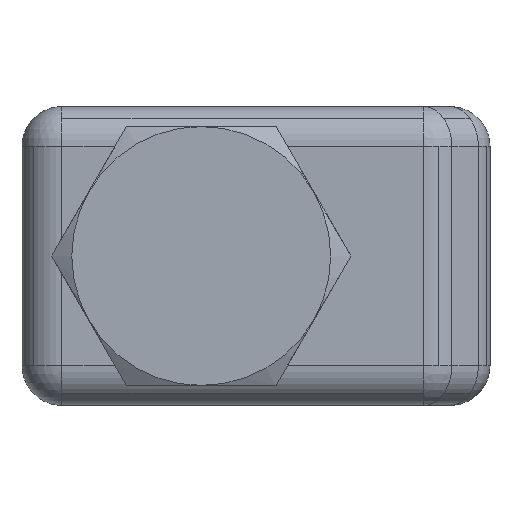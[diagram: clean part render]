
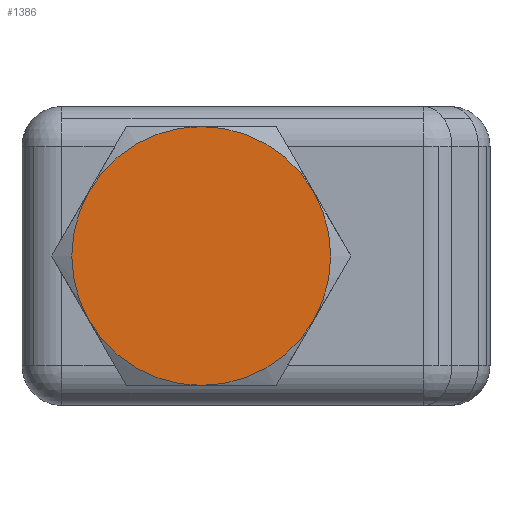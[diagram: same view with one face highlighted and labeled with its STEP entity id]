
A CAD part, front view. The second image highlights one B-rep face of the part: STEP entity #1386.
In plain terms, the highlighted planar face has unit normal (0, -1, 0).
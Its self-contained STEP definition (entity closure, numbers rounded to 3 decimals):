
#1187=CARTESIAN_POINT('',(9.,-23.9,6.5));
#1188=VERTEX_POINT('',#1187);
#1307=CARTESIAN_POINT('',(9.,-23.9,-6.5));
#1308=VERTEX_POINT('',#1307);
#1348=CARTESIAN_POINT('',(9.,-23.9,0.0));
#1349=DIRECTION('',(0.0,1.0,0.0));
#1350=DIRECTION('',(0.0,0.0,-1.0));
#1351=AXIS2_PLACEMENT_3D('',#1348,#1349,#1350);
#1352=CIRCLE('',#1351,6.5);
#1353=EDGE_CURVE('',#1188,#1308,#1352,.T.);
#1364=CARTESIAN_POINT('',(9.,-23.9,0.0));
#1365=DIRECTION('',(0.0,1.0,0.0));
#1366=DIRECTION('',(0.0,0.0,-1.0));
#1367=AXIS2_PLACEMENT_3D('',#1364,#1365,#1366);
#1368=CIRCLE('',#1367,6.5);
#1369=EDGE_CURVE('',#1308,#1188,#1368,.T.);
#1377=CARTESIAN_POINT('',(9.,-23.9,-3.25));
#1378=DIRECTION('',(0.0,-1.0,0.0));
#1379=DIRECTION('',(-1.0,0.0,0.0));
#1380=AXIS2_PLACEMENT_3D('',#1377,#1378,#1379);
#1381=PLANE('',#1380);
#1382=ORIENTED_EDGE('',*,*,#1369,.F.);
#1383=ORIENTED_EDGE('',*,*,#1353,.F.);
#1384=EDGE_LOOP('',(#1382,#1383));
#1385=FACE_OUTER_BOUND('',#1384,.T.);
#1386=ADVANCED_FACE('',(#1385),#1381,.T.);
